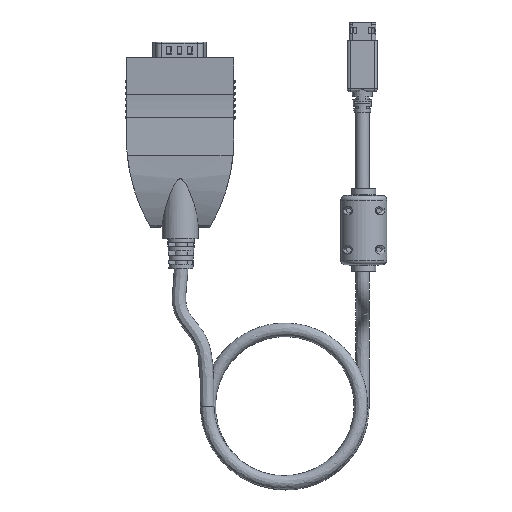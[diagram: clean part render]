
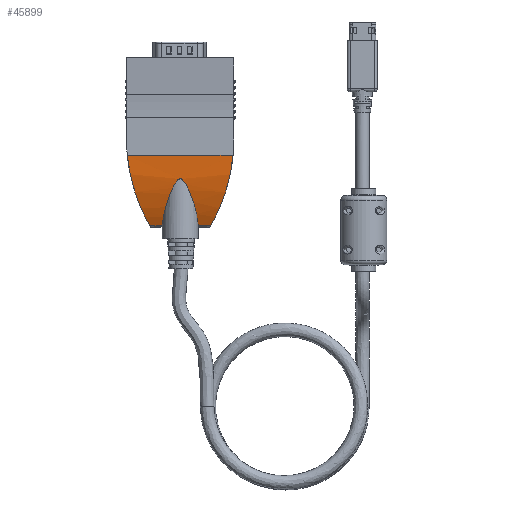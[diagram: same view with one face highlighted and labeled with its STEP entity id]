
A CAD part, front view. The second image highlights one B-rep face of the part: STEP entity #45899.
In plain terms, the highlighted cylindrical face has radius 50.281 mm (diameter 100.563 mm), a partial arc.
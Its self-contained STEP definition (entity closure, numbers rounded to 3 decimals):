
#2144=B_SPLINE_CURVE_WITH_KNOTS('',3,(#86156,#86157,#86158,#86159,#86160,
#86161,#86162,#86163,#86164,#86165,#86166,#86167,#86168,#86169,#86170,#86171,
#86172,#86173,#86174,#86175,#86176,#86177,#86178,#86179,#86180,#86181,#86182,
#86183,#86184,#86185,#86186),.UNSPECIFIED.,.F.,.F.,(4,2,2,2,2,2,2,3,2,2,
2,2,2,2,4),(-1.71,-1.248,-0.605,-0.38,
-0.155,-0.078,-0.039,0.,0.039,
0.078,0.155,0.38,0.605,
1.248,1.71),.UNSPECIFIED.);
#2160=B_SPLINE_CURVE_WITH_KNOTS('',3,(#86501,#86502,#86503,#86504,#86505,
#86506,#86507,#86508,#86509,#86510,#86511,#86512),.UNSPECIFIED.,.F.,.F.,
(4,2,2,2,2,4),(6.398,6.56,7.149,7.739,
8.472,8.841),.UNSPECIFIED.);
#2161=B_SPLINE_CURVE_WITH_KNOTS('',3,(#86516,#86517,#86518,#86519,#86520,
#86521,#86522,#86523,#86524,#86525,#86526,#86527),.UNSPECIFIED.,.F.,.F.,
(4,2,2,2,2,4),(6.398,6.56,7.149,7.739,
8.472,8.841),.UNSPECIFIED.);
#4296=FACE_OUTER_BOUND('',#6869,.T.);
#6869=EDGE_LOOP('',(#40596,#40597,#40598,#40599,#40600,#40601));
#13473=LINE('',#86499,#16590);
#13474=LINE('',#86514,#16591);
#13475=LINE('',#86528,#16592);
#16590=VECTOR('',#62202,10.);
#16591=VECTOR('',#62203,10.);
#16592=VECTOR('',#62204,10.);
#21095=VERTEX_POINT('',#86154);
#21096=VERTEX_POINT('',#86155);
#21129=VERTEX_POINT('',#86498);
#21130=VERTEX_POINT('',#86500);
#21131=VERTEX_POINT('',#86513);
#21132=VERTEX_POINT('',#86515);
#27697=EDGE_CURVE('',#21095,#21096,#2144,.F.);
#27761=EDGE_CURVE('',#21096,#21129,#13473,.T.);
#27762=EDGE_CURVE('',#21130,#21129,#2160,.T.);
#27763=EDGE_CURVE('',#21131,#21130,#13474,.T.);
#27764=EDGE_CURVE('',#21131,#21132,#2161,.T.);
#27765=EDGE_CURVE('',#21095,#21132,#13475,.T.);
#40596=ORIENTED_EDGE('',*,*,#27697,.T.);
#40597=ORIENTED_EDGE('',*,*,#27761,.T.);
#40598=ORIENTED_EDGE('',*,*,#27762,.F.);
#40599=ORIENTED_EDGE('',*,*,#27763,.F.);
#40600=ORIENTED_EDGE('',*,*,#27764,.T.);
#40601=ORIENTED_EDGE('',*,*,#27765,.F.);
#43761=CYLINDRICAL_SURFACE('',#50594,50.281);
#45899=ADVANCED_FACE('',(#4296),#43761,.T.);
#50594=AXIS2_PLACEMENT_3D('',#86497,#62200,#62201);
#62200=DIRECTION('center_axis',(1.,0.,0.));
#62201=DIRECTION('ref_axis',(0.,-1.,0.));
#62202=DIRECTION('',(1.,0.,0.));
#62203=DIRECTION('',(1.,0.,0.));
#62204=DIRECTION('',(-1.,0.,0.));
#86154=CARTESIAN_POINT('',(-5.996,-0.885,-48.916));
#86155=CARTESIAN_POINT('',(5.996,-0.885,-48.916));
#86156=CARTESIAN_POINT('Ctrl Pts',(5.996,-0.885,-48.916));
#86157=CARTESIAN_POINT('Ctrl Pts',(5.886,-1.63,-47.5));
#86158=CARTESIAN_POINT('Ctrl Pts',(5.639,-2.332,-45.996));
#86159=CARTESIAN_POINT('Ctrl Pts',(4.815,-3.812,-42.367));
#86160=CARTESIAN_POINT('Ctrl Pts',(4.153,-4.508,-40.224));
#86161=CARTESIAN_POINT('Ctrl Pts',(3.137,-5.196,-37.606));
#86162=CARTESIAN_POINT('Ctrl Pts',(2.828,-5.375,-36.863));
#86163=CARTESIAN_POINT('Ctrl Pts',(2.129,-5.688,-35.417));
#86164=CARTESIAN_POINT('Ctrl Pts',(1.749,-5.823,-34.708));
#86165=CARTESIAN_POINT('Ctrl Pts',(1.122,-5.959,-33.929));
#86166=CARTESIAN_POINT('Ctrl Pts',(0.931,-5.993,
-33.723));
#86167=CARTESIAN_POINT('Ctrl Pts',(0.607,-6.032,
-33.486));
#86168=CARTESIAN_POINT('Ctrl Pts',(0.493,-6.042,
-33.42));
#86169=CARTESIAN_POINT('Ctrl Pts',(0.254,-6.057,
-33.327));
#86170=CARTESIAN_POINT('Ctrl Pts',(0.129,-6.061,
-33.3));
#86171=CARTESIAN_POINT('Ctrl Pts',(0.,-6.061,-33.3));
#86172=CARTESIAN_POINT('Ctrl Pts',(-0.129,-6.061,
-33.3));
#86173=CARTESIAN_POINT('Ctrl Pts',(-0.254,-6.057,
-33.327));
#86174=CARTESIAN_POINT('Ctrl Pts',(-0.493,-6.042,
-33.42));
#86175=CARTESIAN_POINT('Ctrl Pts',(-0.607,-6.032,
-33.486));
#86176=CARTESIAN_POINT('Ctrl Pts',(-0.931,-5.993,
-33.723));
#86177=CARTESIAN_POINT('Ctrl Pts',(-1.122,-5.959,
-33.929));
#86178=CARTESIAN_POINT('Ctrl Pts',(-1.749,-5.823,
-34.708));
#86179=CARTESIAN_POINT('Ctrl Pts',(-2.129,-5.688,
-35.417));
#86180=CARTESIAN_POINT('Ctrl Pts',(-2.828,-5.375,-36.863));
#86181=CARTESIAN_POINT('Ctrl Pts',(-3.137,-5.196,
-37.606));
#86182=CARTESIAN_POINT('Ctrl Pts',(-4.153,-4.508,
-40.224));
#86183=CARTESIAN_POINT('Ctrl Pts',(-4.815,-3.812,
-42.367));
#86184=CARTESIAN_POINT('Ctrl Pts',(-5.639,-2.332,
-45.996));
#86185=CARTESIAN_POINT('Ctrl Pts',(-5.886,-1.63,
-47.5));
#86186=CARTESIAN_POINT('Ctrl Pts',(-5.996,-0.885,
-48.916));
#86497=CARTESIAN_POINT('Origin',(0.,43.611,-25.5));
#86498=CARTESIAN_POINT('',(10.113,-0.885,-48.916));
#86499=CARTESIAN_POINT('',(0.,-0.885,-48.916));
#86500=CARTESIAN_POINT('',(17.617,-6.67,-25.5));
#86501=CARTESIAN_POINT('Ctrl Pts',(17.617,-6.67,-25.5));
#86502=CARTESIAN_POINT('Ctrl Pts',(17.562,-6.67,-26.078));
#86503=CARTESIAN_POINT('Ctrl Pts',(17.498,-6.66,-26.657));
#86504=CARTESIAN_POINT('Ctrl Pts',(17.16,-6.568,-29.328));
#86505=CARTESIAN_POINT('Ctrl Pts',(16.779,-6.363,-31.406));
#86506=CARTESIAN_POINT('Ctrl Pts',(15.824,-5.726,-35.406));
#86507=CARTESIAN_POINT('Ctrl Pts',(15.25,-5.294,-37.328));
#86508=CARTESIAN_POINT('Ctrl Pts',(13.838,-4.163,-41.349));
#86509=CARTESIAN_POINT('Ctrl Pts',(12.9,-3.368,-43.574));
#86510=CARTESIAN_POINT('Ctrl Pts',(11.289,-1.946,-46.81));
#86511=CARTESIAN_POINT('Ctrl Pts',(10.715,-1.432,-47.876));
#86512=CARTESIAN_POINT('Ctrl Pts',(10.113,-0.885,-48.916));
#86513=CARTESIAN_POINT('',(-17.617,-6.67,-25.5));
#86514=CARTESIAN_POINT('',(0.,-6.67,-25.5));
#86515=CARTESIAN_POINT('',(-10.113,-0.885,-48.916));
#86516=CARTESIAN_POINT('Ctrl Pts',(-17.617,-6.67,-25.5));
#86517=CARTESIAN_POINT('Ctrl Pts',(-17.562,-6.67,-26.078));
#86518=CARTESIAN_POINT('Ctrl Pts',(-17.498,-6.66,
-26.657));
#86519=CARTESIAN_POINT('Ctrl Pts',(-17.16,-6.568,
-29.328));
#86520=CARTESIAN_POINT('Ctrl Pts',(-16.779,-6.363,
-31.406));
#86521=CARTESIAN_POINT('Ctrl Pts',(-15.824,-5.726,-35.406));
#86522=CARTESIAN_POINT('Ctrl Pts',(-15.25,-5.294,
-37.328));
#86523=CARTESIAN_POINT('Ctrl Pts',(-13.838,-4.163,
-41.349));
#86524=CARTESIAN_POINT('Ctrl Pts',(-12.9,-3.368,
-43.574));
#86525=CARTESIAN_POINT('Ctrl Pts',(-11.289,-1.946,
-46.81));
#86526=CARTESIAN_POINT('Ctrl Pts',(-10.715,-1.432,-47.876));
#86527=CARTESIAN_POINT('Ctrl Pts',(-10.113,-0.885,-48.916));
#86528=CARTESIAN_POINT('',(0.,-0.885,-48.916));
